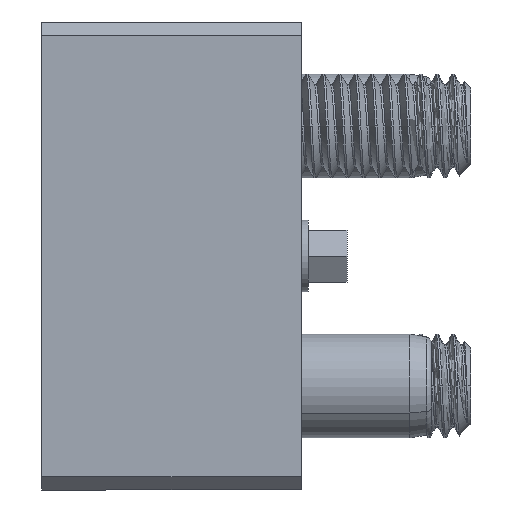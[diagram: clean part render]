
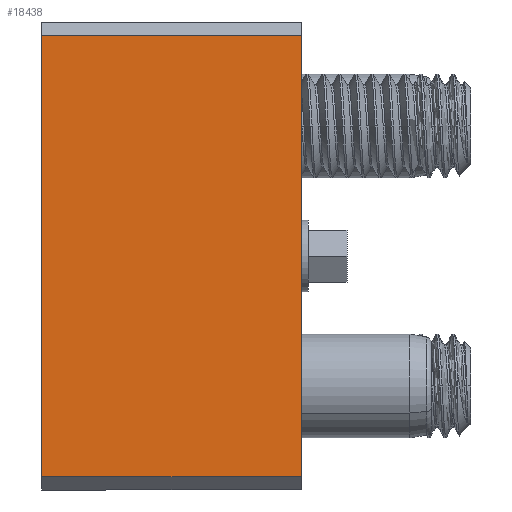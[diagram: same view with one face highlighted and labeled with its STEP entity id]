
A CAD part, left-side view. The second image highlights one B-rep face of the part: STEP entity #18438.
In plain terms, the highlighted planar face has unit normal (-1, 0, 0).
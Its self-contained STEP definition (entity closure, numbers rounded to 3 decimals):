
#144 = VERTEX_POINT ( 'NONE', #3412 ) ;
#321 = CARTESIAN_POINT ( 'NONE',  ( -27., 20., 17. ) ) ;
#324 = EDGE_CURVE ( 'NONE', #144, #15685, #12233, .T. ) ;
#881 = CARTESIAN_POINT ( 'NONE',  ( -27., 0., 17. ) ) ;
#1562 = VECTOR ( 'NONE', #9015, 1000. ) ;
#1972 = EDGE_CURVE ( 'NONE', #8925, #15685, #10923, .T. ) ;
#2288 = DIRECTION ( 'NONE',  ( 0., -1., 0. ) ) ;
#2543 = CARTESIAN_POINT ( 'NONE',  ( -27., 0., 18. ) ) ;
#3412 = CARTESIAN_POINT ( 'NONE',  ( -27., 20., -17. ) ) ;
#4124 = CARTESIAN_POINT ( 'NONE',  ( -27., 20., 18. ) ) ;
#5491 = FACE_OUTER_BOUND ( 'NONE', #5900, .T. ) ;
#5900 = EDGE_LOOP ( 'NONE', ( #17841, #8688, #19676, #16437 ) ) ;
#5921 = PLANE ( 'NONE',  #19223 ) ;
#6334 = EDGE_CURVE ( 'NONE', #144, #12907, #11260, .T. ) ;
#6705 = CARTESIAN_POINT ( 'NONE',  ( -27., 20., 17. ) ) ;
#6736 = VECTOR ( 'NONE', #14646, 1000. ) ;
#7519 = VECTOR ( 'NONE', #19751, 1000. ) ;
#8688 = ORIENTED_EDGE ( 'NONE', *, *, #1972, .T. ) ;
#8925 = VERTEX_POINT ( 'NONE', #881 ) ;
#9015 = DIRECTION ( 'NONE',  ( 0., 0., 1. ) ) ;
#10810 = EDGE_CURVE ( 'NONE', #12907, #8925, #11015, .T. ) ;
#10923 = LINE ( 'NONE', #321, #6736 ) ;
#11015 = LINE ( 'NONE', #2543, #1562 ) ;
#11260 = LINE ( 'NONE', #18291, #15008 ) ;
#12233 = LINE ( 'NONE', #16720, #7519 ) ;
#12907 = VERTEX_POINT ( 'NONE', #14099 ) ;
#14099 = CARTESIAN_POINT ( 'NONE',  ( -27., 0., -17. ) ) ;
#14646 = DIRECTION ( 'NONE',  ( 0., 1., 0. ) ) ;
#15008 = VECTOR ( 'NONE', #2288, 1000. ) ;
#15685 = VERTEX_POINT ( 'NONE', #6705 ) ;
#16437 = ORIENTED_EDGE ( 'NONE', *, *, #6334, .T. ) ;
#16720 = CARTESIAN_POINT ( 'NONE',  ( -27., 20., 18. ) ) ;
#16861 = DIRECTION ( 'NONE',  ( 0., 0., -1. ) ) ;
#17841 = ORIENTED_EDGE ( 'NONE', *, *, #10810, .T. ) ;
#18291 = CARTESIAN_POINT ( 'NONE',  ( -27., 20., -17. ) ) ;
#18438 = ADVANCED_FACE ( 'NONE', ( #5491 ), #5921, .F. ) ;
#19223 = AXIS2_PLACEMENT_3D ( 'NONE', #4124, #19957, #16861 ) ;
#19676 = ORIENTED_EDGE ( 'NONE', *, *, #324, .F. ) ;
#19751 = DIRECTION ( 'NONE',  ( 0., 0., 1. ) ) ;
#19957 = DIRECTION ( 'NONE',  ( 1., 0., 0. ) ) ;
